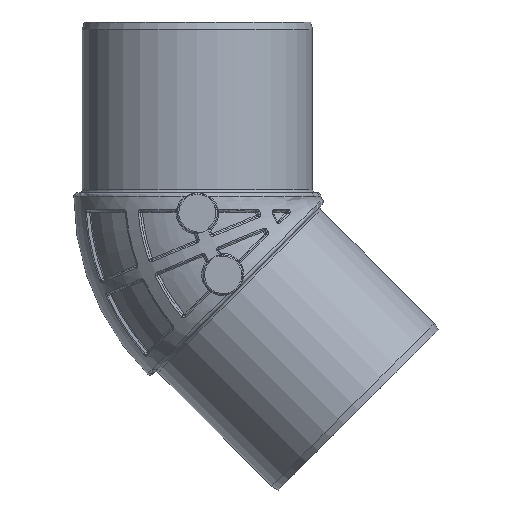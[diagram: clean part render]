
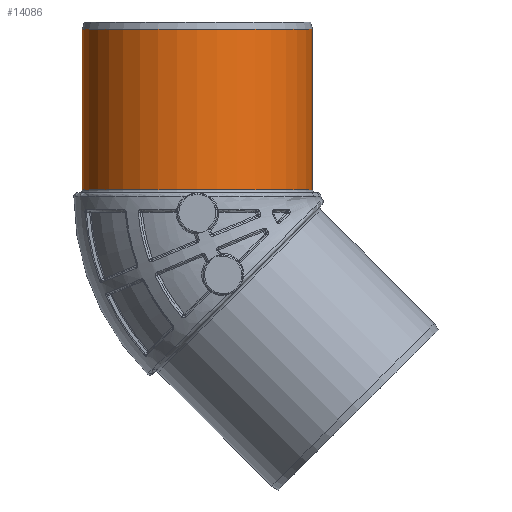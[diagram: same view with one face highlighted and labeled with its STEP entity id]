
A CAD part, front view. The second image highlights one B-rep face of the part: STEP entity #14086.
In plain terms, the highlighted cylindrical face has radius 31.7 mm (diameter 63.4 mm), a partial arc.
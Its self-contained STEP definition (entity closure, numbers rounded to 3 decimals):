
#83 = CARTESIAN_POINT ( 'NONE',  ( 31.7, 0., 60.539 ) ) ;
#363 = CARTESIAN_POINT ( 'NONE',  ( 31.7, 0., 16.339 ) ) ;
#828 = CIRCLE ( 'NONE', #1344, 31.7 ) ;
#1174 = AXIS2_PLACEMENT_3D ( 'NONE', #6553, #6554, #6555 ) ;
#1344 = AXIS2_PLACEMENT_3D ( 'NONE', #1570, #1571, #1572 ) ;
#1570 = CARTESIAN_POINT ( 'NONE',  ( 0., 0., 60.539 ) ) ;
#1571 = DIRECTION ( 'NONE',  ( 0., 0., -1. ) ) ;
#1572 = DIRECTION ( 'NONE',  ( 1., 0., 0. ) ) ;
#4074 = DIRECTION ( 'NONE',  ( 1., 0., 0. ) ) ;
#4132 = CARTESIAN_POINT ( 'NONE',  ( 0., 0., 15.539 ) ) ;
#4135 = DIRECTION ( 'NONE',  ( 0., 0., 1. ) ) ;
#6553 = CARTESIAN_POINT ( 'NONE',  ( 0., 0., 16.339 ) ) ;
#6554 = DIRECTION ( 'NONE',  ( 0., 0., 1. ) ) ;
#6555 = DIRECTION ( 'NONE',  ( 1., 0., 0. ) ) ;
#6719 = CARTESIAN_POINT ( 'NONE',  ( -31.7, 0., 60.539 ) ) ;
#8427 = CARTESIAN_POINT ( 'NONE',  ( 31.7, 0., 15.539 ) ) ;
#8436 = DIRECTION ( 'NONE',  ( 0., 0., 1. ) ) ;
#8551 = CARTESIAN_POINT ( 'NONE',  ( -31.7, 0., 15.539 ) ) ;
#8556 = DIRECTION ( 'NONE',  ( 0., 0., 1. ) ) ;
#13171 = VERTEX_POINT ( 'NONE', #18493 ) ;
#13476 = VERTEX_POINT ( 'NONE', #363 ) ;
#13595 = VERTEX_POINT ( 'NONE', #83 ) ;
#14086 = ADVANCED_FACE ( 'NONE', ( #14872 ), #14873, .T. ) ;
#14872 = FACE_OUTER_BOUND ( 'NONE', #16561, .T. ) ;
#14873 = CYLINDRICAL_SURFACE ( 'NONE', #17808, 31.7 ) ;
#15054 = LINE ( 'NONE', #8427, #15056 ) ;
#15056 = VECTOR ( 'NONE', #8436, 1000. ) ;
#15064 = LINE ( 'NONE', #8551, #15065 ) ;
#15065 = VECTOR ( 'NONE', #8556, 1000. ) ;
#15178 = CIRCLE ( 'NONE', #1174, 31.7 ) ;
#15533 = EDGE_CURVE ( 'NONE', #13476, #13595, #15054, .T. ) ;
#15555 = EDGE_CURVE ( 'NONE', #13171, #16395, #15064, .T. ) ;
#15709 = EDGE_CURVE ( 'NONE', #13171, #13476, #15178, .T. ) ;
#16395 = VERTEX_POINT ( 'NONE', #6719 ) ;
#16561 = EDGE_LOOP ( 'NONE', ( #17245, #17183, #17257, #17184 ) ) ;
#17183 = ORIENTED_EDGE ( 'NONE', *, *, #15709, .T. ) ;
#17184 = ORIENTED_EDGE ( 'NONE', *, *, #18044, .T. ) ;
#17245 = ORIENTED_EDGE ( 'NONE', *, *, #15555, .F. ) ;
#17257 = ORIENTED_EDGE ( 'NONE', *, *, #15533, .T. ) ;
#17808 = AXIS2_PLACEMENT_3D ( 'NONE', #4132, #4135, #4074 ) ;
#18044 = EDGE_CURVE ( 'NONE', #13595, #16395, #828, .T. ) ;
#18493 = CARTESIAN_POINT ( 'NONE',  ( -31.7, 0., 16.339 ) ) ;
